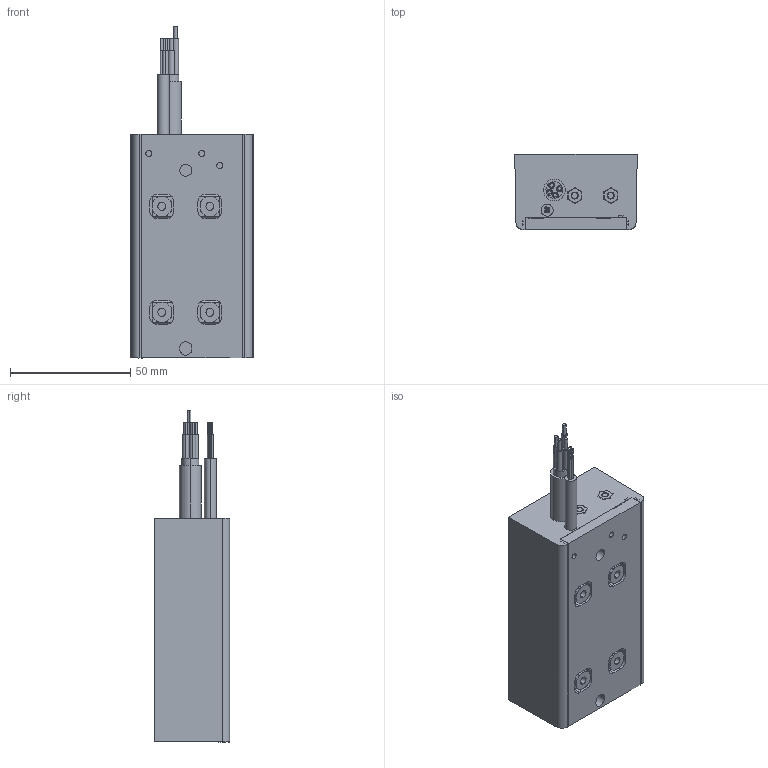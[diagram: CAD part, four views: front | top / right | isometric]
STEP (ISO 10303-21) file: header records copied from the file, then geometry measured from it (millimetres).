
FILE_DESCRIPTION (( 'STEP AP203' ), '1' );
FILE_NAME ('IC3-50 assemblt 3D.STEP', '2019-03-28T11:19:15', ( '' ), ( '' ), 'SwSTEP 2.0', 'SolidWorks 2018', '' );
FILE_SCHEMA (( 'CONFIG_CONTROL_DESIGN' ));
Length unit declared in the file: millimetre
Products named in the file (7): IC3-50 resin; power cable 3D; IC-50 dovetail rounded; sensor cable 3D; M3 nut hall module for 3D CU; IC3-50 housing; IC3-50 assemblt 3D
Assembly tree (8 placements, depth 2):
  IC3-50 assemblt 3D
    IC3-50 housing
    IC-50 dovetail rounded  x2
    IC3-50 resin
    M3 nut hall module for 3D CU  x2
    power cable 3D
    sensor cable 3D
Bounding box: 50.93 x 31.28 x 138 mm (x, y, z)
Volume: 147860.1 mm3; surface area: 33510.3 mm2
Topology: 9 solids, 9 shells, 447 faces, 1153 edges, 733 vertices
Faces by surface type: plane 221, cylinder 188, torus 26, sphere 12
Entity records: 11975 total; most frequent: CARTESIAN_POINT 2389, DIRECTION 1901, ORIENTED_EDGE 1802, EDGE_CURVE 901, AXIS2_PLACEMENT_3D 676, VERTEX_POINT 585, VECTOR 549, LINE 549
